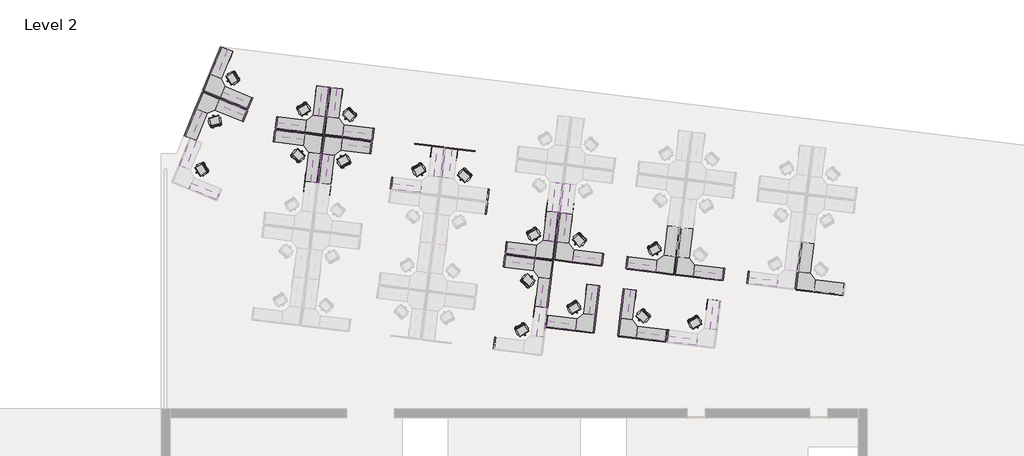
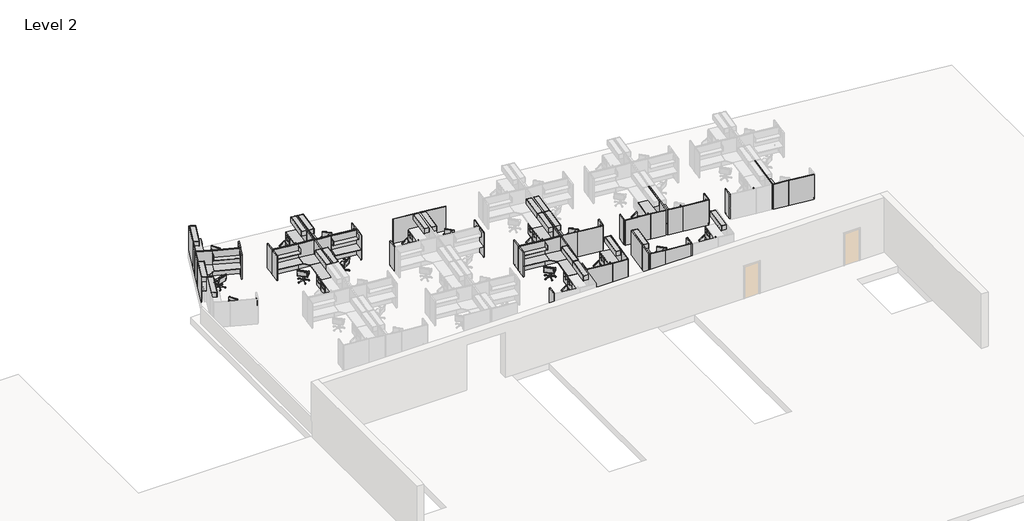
# One storey, part 5 of 6: 105 furniture elements.
"""IFC4 building model written with IfcOpenShell, lengths in millimetres."""

from ifc_helpers import new_model, si_unit, origin, place, context, project, spatial, transform, mapped, element, save
from components import chair_task_arms_chair_task_arms_3b363349, chair_task_arms_chair_task_arms_8395c10b, furniture_665347ce, furniture_3ceed070, furniture_00cef8f1, furniture_8d825890, overhead_shelving_module_overhead_shelving_module_3ee17988, overhead_shelving_module_overhead_shelving_module_7dcda1b9, overhead_storage_module_overhead_storage_module_326dc690, overhead_storage_module_overhead_storage_module_bea9f75f, furniture_0333d240, furniture_4718bb14, furniture_45e3acac, furniture_7b33082a

model = new_model("IFC4")

# Units and contexts
model_context = context("Model", 3, world=origin())
ifc_project = project(units=[si_unit("LENGTHUNIT", "METRE", prefix="MILLI")], contexts=[model_context])

# Site, building, storey
site = spatial("IfcSite", under=ifc_project)
building = spatial("IfcBuilding", under=site)
storey = spatial("IfcBuildingStorey", under=building, Name="Level 2", Elevation=3657.6)

# Furniture
placement = place(None, origin())
chair_task_arms_chair_task_arms_shape = chair_task_arms_chair_task_arms_3b363349(model_context)
element("IfcFurniture", 1, ObjectType="Chair-Task Arms : Chair-Task Arms", at=placement, inside=storey, context=model_context, shape_type="MappedRepresentation", body=[
    mapped(chair_task_arms_chair_task_arms_shape, transform((-23352.4193491, 11903.0432182, 3657.6), x_axis=(-0.7193398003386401, 0.6946583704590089, 0.0), y_axis=(-0.6946583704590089, -0.7193398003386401, 0.0), z_axis=(0.0, 0.0, 1.0))),
])
element("IfcFurniture", 2, ObjectType="Chair-Task Arms : Chair-Task Arms", at=placement, inside=storey, context=model_context, shape_type="MappedRepresentation", body=[
    mapped(chair_task_arms_chair_task_arms_shape, transform((-17391.147875, 8765.5606586, 3657.6), x_axis=(-0.7193398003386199, 0.6946583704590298, 0.0), y_axis=(-0.6946583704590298, -0.7193398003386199, 0.0), z_axis=(0.0, 0.0, 1.0))),
])
element("IfcFurniture", 3, ObjectType="Chair-Task Arms : Chair-Task Arms", at=placement, inside=storey, context=model_context, shape_type="MappedRepresentation", body=[
    mapped(chair_task_arms_chair_task_arms_shape, transform((-14358.0359457, 3469.8400502, 3657.6), x_axis=(0.7193398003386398, -0.6946583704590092, 0.0), y_axis=(0.6946583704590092, 0.7193398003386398, 0.0), z_axis=(0.0, 0.0, 1.0))),
])
element("IfcFurniture", 4, ObjectType="Chair-Task Arms : Chair-Task Arms", at=placement, inside=storey, context=model_context, shape_type="MappedRepresentation", body=[
    mapped(chair_task_arms_chair_task_arms_shape, transform((-11454.6402515, 5426.3927209, 3657.6), x_axis=(-0.7193398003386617, 0.6946583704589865, 0.0), y_axis=(-0.6946583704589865, -0.7193398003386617, 0.0), z_axis=(0.0, 0.0, 1.0))),
])
element("IfcFurniture", 5, ObjectType="Chair-Task Arms : Chair-Task Arms", at=placement, inside=storey, context=model_context, shape_type="MappedRepresentation", body=[
    mapped(chair_task_arms_chair_task_arms_shape, transform((-26255.8150433, 9946.4905474, 3657.6), x_axis=(0.7193398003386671, -0.6946583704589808, 0.0), y_axis=(0.6946583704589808, 0.7193398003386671, 0.0), z_axis=(0.0, 0.0, 1.0))),
])
element("IfcFurniture", 6, ObjectType="Chair-Task Arms : Chair-Task Arms", at=placement, inside=storey, context=model_context, shape_type="MappedRepresentation", body=[
    mapped(chair_task_arms_chair_task_arms_shape, transform((-29421.3744907, 13765.940724, 3657.6), x_axis=(-0.5113844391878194, 0.8593520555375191, 0.0), y_axis=(-0.8593520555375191, -0.5113844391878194, 0.0), z_axis=(0.0, 0.0, 1.0))),
])
element("IfcFurniture", 7, ObjectType="Chair-Task Arms : Chair-Task Arms", at=placement, inside=storey, context=model_context, shape_type="MappedRepresentation", body=[
    mapped(chair_task_arms_chair_task_arms_shape, transform((-31023.8319386, 9042.6474103, 3657.6), x_axis=(-0.5113844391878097, 0.8593520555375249, 0.0), y_axis=(-0.8593520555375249, -0.5113844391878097, 0.0), z_axis=(0.0, 0.0, 1.0))),
])
element("IfcFurniture", 8, ObjectType="Chair-Task Arms : Chair-Task Arms", at=placement, inside=storey, context=model_context, shape_type="MappedRepresentation", body=[
    mapped(chair_task_arms_chair_task_arms_shape, transform((-8151.4574, 1482.5085649, 3657.6), x_axis=(-0.7193398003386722, 0.6946583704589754, 0.0), y_axis=(-0.6946583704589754, -0.7193398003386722, 0.0), z_axis=(0.0, 0.0, 1.0))),
])
chair_task_arms_chair_task_arms_2_shape = chair_task_arms_chair_task_arms_8395c10b(model_context)
element("IfcFurniture", 9, ObjectType="Chair-Task Arms : Chair-Task Arms", at=placement, inside=storey, context=model_context, shape_type="MappedRepresentation", body=[
    mapped(chair_task_arms_chair_task_arms_2_shape, transform((-20014.7554735, 9087.6991655, 3657.6), x_axis=(0.866025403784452, 0.4999999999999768, 0.0), y_axis=(-0.4999999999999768, 0.866025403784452, 0.0), z_axis=(0.0, 0.0, 1.0))),
])
element("IfcFurniture", 10, ObjectType="Chair-Task Arms : Chair-Task Arms", at=placement, inside=storey, context=model_context, shape_type="MappedRepresentation", body=[
    mapped(chair_task_arms_chair_task_arms_2_shape, transform((-23632.2074448, 9624.3520405, 3657.6), x_axis=(-0.8660254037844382, -0.5000000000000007, 0.0), y_axis=(0.5000000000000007, -0.8660254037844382, 0.0), z_axis=(0.0, 0.0, 1.0))),
])
element("IfcFurniture", 11, ObjectType="Chair-Task Arms : Chair-Task Arms", at=placement, inside=storey, context=model_context, shape_type="MappedRepresentation", body=[
    mapped(chair_task_arms_chair_task_arms_2_shape, transform((-14078.24785, 5748.5312279, 3657.6), x_axis=(0.8660254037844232, 0.5000000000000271, 0.0), y_axis=(-0.5000000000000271, 0.8660254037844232, 0.0), z_axis=(0.0, 0.0, 1.0))),
])
element("IfcFurniture", 12, ObjectType="Chair-Task Arms : Chair-Task Arms", at=placement, inside=storey, context=model_context, shape_type="MappedRepresentation", body=[
    mapped(chair_task_arms_chair_task_arms_2_shape, transform((-14684.9621892, 807.2394665, 3657.6), x_axis=(0.8660254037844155, 0.5000000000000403, 0.0), y_axis=(-0.5000000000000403, 0.8660254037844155, 0.0), z_axis=(0.0, 0.0, 1.0))),
])
element("IfcFurniture", 13, ObjectType="Chair-Task Arms : Chair-Task Arms", at=placement, inside=storey, context=model_context, shape_type="MappedRepresentation", body=[
    mapped(chair_task_arms_chair_task_arms_2_shape, transform((-7826.0011316, 4980.8518599, 3657.6), x_axis=(0.8660254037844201, 0.5000000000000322, 0.0), y_axis=(-0.5000000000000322, 0.8660254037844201, 0.0), z_axis=(0.0, 0.0, 1.0))),
])
element("IfcFurniture", 14, ObjectType="Chair-Task Arms : Chair-Task Arms", at=placement, inside=storey, context=model_context, shape_type="MappedRepresentation", body=[
    mapped(chair_task_arms_chair_task_arms_2_shape, transform((-25976.0269476, 12225.1817252, 3657.6), x_axis=(0.8660254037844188, 0.5000000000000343, 0.0), y_axis=(-0.5000000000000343, 0.8660254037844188, 0.0), z_axis=(0.0, 0.0, 1.0))),
])
element("IfcFurniture", 15, ObjectType="Chair-Task Arms : Chair-Task Arms", at=placement, inside=storey, context=model_context, shape_type="MappedRepresentation", body=[
    mapped(chair_task_arms_chair_task_arms_2_shape, transform((-30290.4515264, 11640.9889674, 3657.6), x_axis=(-0.9670188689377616, -0.2547047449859, 0.0), y_axis=(0.2547047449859, -0.9670188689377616, 0.0), z_axis=(0.0, 0.0, 1.0))),
])
element("IfcFurniture", 16, ObjectType="Chair-Task Arms : Chair-Task Arms", at=placement, inside=storey, context=model_context, shape_type="MappedRepresentation", body=[
    mapped(chair_task_arms_chair_task_arms_2_shape, transform((-11985.1772665, 1953.2301754, 3657.6), x_axis=(0.8660254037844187, 0.5000000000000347, 0.0), y_axis=(-0.5000000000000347, 0.8660254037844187, 0.0), z_axis=(0.0, 0.0, 1.0))),
])
element("IfcFurniture", 17, ObjectType="Chair-Task Arms : Chair-Task Arms", at=placement, inside=storey, context=model_context, shape_type="MappedRepresentation", body=[
    mapped(chair_task_arms_chair_task_arms_2_shape, transform((-5732.9305481, 1185.5508074, 3657.6), x_axis=(0.8660254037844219, 0.5000000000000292, 0.0), y_axis=(-0.5000000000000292, 0.8660254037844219, 0.0), z_axis=(0.0, 0.0, 1.0))),
])
furniture_shape = furniture_665347ce(model_context)
element("IfcFurniture", 18, ObjectType="Cube Panel : 24\" x 66\"", at=placement, inside=storey, context=model_context, shape_type="MappedRepresentation", body=[
    mapped(furniture_shape, transform((-22264.9239048, 10971.2636434, 3657.6), x_axis=(0.12186934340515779, 0.9925461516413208, 0.0), y_axis=(-0.9925461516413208, 0.12186934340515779, 0.0), z_axis=(0.0, 0.0, 1.0))),
])
element("IfcFurniture", 19, ObjectType="Cube Panel : 24\" x 66\"", at=placement, inside=storey, context=model_context, shape_type="MappedRepresentation", body=[
    mapped(furniture_shape, transform((-16303.6524307, 7833.7810838, 3657.6), x_axis=(0.12186934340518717, 0.9925461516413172, 0.0), y_axis=(-0.9925461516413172, 0.12186934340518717, 0.0), z_axis=(0.0, 0.0, 1.0))),
])
element("IfcFurniture", 20, ObjectType="Cube Panel : 24\" x 66\"", at=placement, inside=storey, context=model_context, shape_type="MappedRepresentation", body=[
    mapped(furniture_shape, transform((-15445.53139, 4401.6196249, 3657.6), x_axis=(-0.12186934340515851, -0.9925461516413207, 0.0), y_axis=(0.9925461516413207, -0.12186934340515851, 0.0), z_axis=(0.0, 0.0, 1.0))),
])
element("IfcFurniture", 21, ObjectType="Cube Panel : 24\" x 66\"", at=placement, inside=storey, context=model_context, shape_type="MappedRepresentation", body=[
    mapped(furniture_shape, transform((-10367.1448072, 4494.6131461, 3657.6), x_axis=(0.12186934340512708, 0.9925461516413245, 0.0), y_axis=(-0.9925461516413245, 0.12186934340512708, 0.0), z_axis=(0.0, 0.0, 1.0))),
])
element("IfcFurniture", 22, ObjectType="Cube Panel : 24\" x 66\"", at=placement, inside=storey, context=model_context, shape_type="MappedRepresentation", body=[
    mapped(furniture_shape, transform((-4114.8980887, 3726.9337782, 3657.6), x_axis=(0.12186934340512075, 0.9925461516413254, 0.0), y_axis=(-0.9925461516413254, 0.12186934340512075, 0.0), z_axis=(0.0, 0.0, 1.0))),
])
element("IfcFurniture", 23, ObjectType="Cube Panel : 24\" x 66\"", at=placement, inside=storey, context=model_context, shape_type="MappedRepresentation", body=[
    mapped(furniture_shape, transform((-27343.3104877, 10878.2701222, 3657.6), x_axis=(-0.12186934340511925, -0.9925461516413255, 0.0), y_axis=(0.9925461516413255, -0.12186934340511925, 0.0), z_axis=(0.0, 0.0, 1.0))),
])
element("IfcFurniture", 24, ObjectType="Cube Panel : 24\" x 66\"", at=placement, inside=storey, context=model_context, shape_type="MappedRepresentation", body=[
    mapped(furniture_shape, transform((-28617.1338204, 12581.0118393, 3657.6), x_axis=(0.37855022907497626, 0.9255807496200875, 0.0), y_axis=(-0.9255807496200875, 0.37855022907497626, 0.0), z_axis=(0.0, 0.0, 1.0))),
])
element("IfcFurniture", 25, ObjectType="Cube Panel : 24\" x 66\"", at=placement, inside=storey, context=model_context, shape_type="MappedRepresentation", body=[
    mapped(furniture_shape, transform((-7063.9619556, 550.7289902, 3657.6), x_axis=(0.12186934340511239, 0.9925461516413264, 0.0), y_axis=(-0.9925461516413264, 0.12186934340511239, 0.0), z_axis=(0.0, 0.0, 1.0))),
])
furniture_2_shape = furniture_3ceed070(model_context)
element("IfcFurniture", 26, ObjectType="Cube Panel : 24\" x 66\"", at=placement, inside=storey, context=model_context, shape_type="MappedRepresentation", body=[
    mapped(furniture_2_shape, transform((-21295.3655365, 8446.6863856, 3657.6), x_axis=(0.12186934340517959, 0.9925461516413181, 0.0), y_axis=(-0.9925461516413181, 0.12186934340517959, 0.0), z_axis=(0.0, 0.0, 1.0))),
])
element("IfcFurniture", 27, ObjectType="Cube Panel : 24\" x 66\"", at=placement, inside=storey, context=model_context, shape_type="MappedRepresentation", body=[
    mapped(furniture_2_shape, transform((-22351.5973818, 10265.3648204, 3657.6), x_axis=(-0.12186934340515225, -0.9925461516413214, 0.0), y_axis=(0.9925461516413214, -0.12186934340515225, 0.0), z_axis=(0.0, 0.0, 1.0))),
])
element("IfcFurniture", 28, ObjectType="Cube Panel : 24\" x 66\"", at=placement, inside=storey, context=model_context, shape_type="MappedRepresentation", body=[
    mapped(furniture_2_shape, transform((-16390.3259077, 7127.8822607, 3657.6), x_axis=(-0.12186934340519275, -0.9925461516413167, 0.0), y_axis=(0.9925461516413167, -0.12186934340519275, 0.0), z_axis=(0.0, 0.0, 1.0))),
])
element("IfcFurniture", 29, ObjectType="Cube Panel : 24\" x 66\"", at=placement, inside=storey, context=model_context, shape_type="MappedRepresentation", body=[
    mapped(furniture_2_shape, transform((-15358.857913, 5107.518448, 3657.6), x_axis=(0.12186934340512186, 0.9925461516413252, 0.0), y_axis=(-0.9925461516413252, 0.12186934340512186, 0.0), z_axis=(0.0, 0.0, 1.0))),
])
element("IfcFurniture", 30, ObjectType="Cube Panel : 24\" x 66\"", at=placement, inside=storey, context=model_context, shape_type="MappedRepresentation", body=[
    mapped(furniture_2_shape, transform((-15965.5722522, 166.2266867, 3657.6), x_axis=(0.12186934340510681, 0.9925461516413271, 0.0), y_axis=(-0.9925461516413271, 0.12186934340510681, 0.0), z_axis=(0.0, 0.0, 1.0))),
])
element("IfcFurniture", 31, ObjectType="Cube Panel : 24\" x 66\"", at=placement, inside=storey, context=model_context, shape_type="MappedRepresentation", body=[
    mapped(furniture_2_shape, transform((-9106.6111946, 4339.83908, 3657.6), x_axis=(0.1218693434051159, 0.992546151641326, 0.0), y_axis=(-0.992546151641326, 0.1218693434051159, 0.0), z_axis=(0.0, 0.0, 1.0))),
])
element("IfcFurniture", 32, ObjectType="Cube Panel : 24\" x 66\"", at=placement, inside=storey, context=model_context, shape_type="MappedRepresentation", body=[
    mapped(furniture_2_shape, transform((-2854.3644762, 3572.159712, 3657.6), x_axis=(0.1218693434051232, 0.9925461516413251, 0.0), y_axis=(-0.9925461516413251, 0.1218693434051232, 0.0), z_axis=(0.0, 0.0, 1.0))),
])
element("IfcFurniture", 33, ObjectType="Cube Panel : 24\" x 66\"", at=placement, inside=storey, context=model_context, shape_type="MappedRepresentation", body=[
    mapped(furniture_2_shape, transform((-27256.6370106, 11584.1689453, 3657.6), x_axis=(0.12186934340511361, 0.9925461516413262, 0.0), y_axis=(-0.9925461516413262, 0.12186934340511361, 0.0), z_axis=(0.0, 0.0, 1.0))),
])
element("IfcFurniture", 34, ObjectType="Cube Panel : 24\" x 66\"", at=placement, inside=storey, context=model_context, shape_type="MappedRepresentation", body=[
    mapped(furniture_2_shape, transform((-28886.3587433, 11922.7388102, 3657.6), x_axis=(-0.37855022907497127, -0.9255807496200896, 0.0), y_axis=(0.9255807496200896, -0.37855022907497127, 0.0), z_axis=(0.0, 0.0, 1.0))),
])
element("IfcFurniture", 35, ObjectType="Cube Panel : 24\" x 66\"", at=placement, inside=storey, context=model_context, shape_type="MappedRepresentation", body=[
    mapped(furniture_2_shape, transform((-13265.7873296, 1312.2173955, 3657.6), x_axis=(0.12186934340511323, 0.9925461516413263, 0.0), y_axis=(-0.9925461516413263, 0.12186934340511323, 0.0), z_axis=(0.0, 0.0, 1.0))),
])
element("IfcFurniture", 36, ObjectType="Cube Panel : 24\" x 66\"", at=placement, inside=storey, context=model_context, shape_type="MappedRepresentation", body=[
    mapped(furniture_2_shape, transform((-7013.5406111, 544.5380275, 3657.6), x_axis=(0.12186934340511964, 0.9925461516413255, 0.0), y_axis=(-0.9925461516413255, 0.12186934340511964, 0.0), z_axis=(0.0, 0.0, 1.0))),
])
furniture_3_shape = furniture_00cef8f1(model_context)
element("IfcFurniture", 37, ObjectType="Cube Panel : 60\" x 66\"", at=placement, inside=storey, context=model_context, shape_type="MappedRepresentation", body=[
    mapped(furniture_3_shape, transform((-17729.6515591, 10184.0854738, 3657.6), x_axis=(0.9925461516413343, -0.12186934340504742, 0.0), y_axis=(0.12186934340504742, 0.9925461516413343, 0.0), z_axis=(0.0, 0.0, 1.0))),
])
furniture_4_shape = furniture_8d825890(model_context)
element("IfcFurniture", 38, ObjectType="Cube Panel : 60\" x 66\"", at=placement, inside=storey, context=model_context, shape_type="MappedRepresentation", body=[
    mapped(furniture_4_shape, transform((-19343.1345832, 10382.1962784, 3657.6), x_axis=(-0.9925461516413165, 0.12186934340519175, 0.0), y_axis=(-0.12186934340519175, -0.9925461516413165, 0.0), z_axis=(0.0, 0.0, 1.0))),
])
overhead_shelving_module_overhead_shelving_module_shape = overhead_shelving_module_overhead_shelving_module_3ee17988(model_context)
element("IfcFurniture", 39, ObjectType="Overhead Shelving Module : Overhead Shelving Module", at=placement, inside=storey, context=model_context, shape_type="MappedRepresentation", body=[
    mapped(overhead_shelving_module_overhead_shelving_module_shape, transform((-23211.4257966, 11018.3276546, 3505.2), x_axis=(-0.9925461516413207, 0.1218693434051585, 0.0), y_axis=(-0.1218693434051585, -0.9925461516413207, 0.0), z_axis=(0.0, 0.0, 1.0))),
])
element("IfcFurniture", 40, ObjectType="Overhead Shelving Module : Overhead Shelving Module", at=placement, inside=storey, context=model_context, shape_type="MappedRepresentation", body=[
    mapped(overhead_shelving_module_overhead_shelving_module_shape, transform((-14499.0294982, 4354.5556138, 3505.2), x_axis=(0.9925461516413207, -0.12186934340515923, 0.0), y_axis=(0.12186934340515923, 0.9925461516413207, 0.0), z_axis=(0.0, 0.0, 1.0))),
])
element("IfcFurniture", 41, ObjectType="Overhead Shelving Module : Overhead Shelving Module", at=placement, inside=storey, context=model_context, shape_type="MappedRepresentation", body=[
    mapped(overhead_shelving_module_overhead_shelving_module_shape, transform((-11313.646699, 4541.6771573, 3505.2), x_axis=(-0.9925461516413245, 0.1218693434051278, 0.0), y_axis=(-0.1218693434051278, -0.9925461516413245, 0.0), z_axis=(0.0, 0.0, 1.0))),
])
element("IfcFurniture", 42, ObjectType="Overhead Shelving Module : Overhead Shelving Module", at=placement, inside=storey, context=model_context, shape_type="MappedRepresentation", body=[
    mapped(overhead_shelving_module_overhead_shelving_module_shape, transform((-5061.3999806, 3773.9977893, 3505.2), x_axis=(-0.9925461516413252, 0.12186934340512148, 0.0), y_axis=(-0.12186934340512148, -0.9925461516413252, 0.0), z_axis=(0.0, 0.0, 1.0))),
])
element("IfcFurniture", 43, ObjectType="Overhead Shelving Module : Overhead Shelving Module", at=placement, inside=storey, context=model_context, shape_type="MappedRepresentation", body=[
    mapped(overhead_shelving_module_overhead_shelving_module_shape, transform((-26396.8085958, 10831.2061111, 3505.2), x_axis=(0.9925461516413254, -0.12186934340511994, 0.0), y_axis=(0.12186934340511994, 0.9925461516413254, 0.0), z_axis=(0.0, 0.0, 1.0))),
])
element("IfcFurniture", 44, ObjectType="Overhead Shelving Module : Overhead Shelving Module", at=placement, inside=storey, context=model_context, shape_type="MappedRepresentation", body=[
    mapped(overhead_shelving_module_overhead_shelving_module_shape, transform((-29517.9588301, 12875.2823856, 3505.2), x_axis=(-0.9255807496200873, 0.378550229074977, 0.0), y_axis=(-0.378550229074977, -0.9255807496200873, 0.0), z_axis=(0.0, 0.0, 1.0))),
])
element("IfcFurniture", 45, ObjectType="Overhead Shelving Module : Overhead Shelving Module", at=placement, inside=storey, context=model_context, shape_type="MappedRepresentation", body=[
    mapped(overhead_shelving_module_overhead_shelving_module_shape, transform((-31120.416278, 8151.9890719, 3505.2), x_axis=(-0.9255807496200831, 0.37855022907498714, 0.0), y_axis=(-0.37855022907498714, -0.9255807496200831, 0.0), z_axis=(0.0, 0.0, 1.0))),
])
element("IfcFurniture", 46, ObjectType="Overhead Shelving Module : Overhead Shelving Module", at=placement, inside=storey, context=model_context, shape_type="MappedRepresentation", body=[
    mapped(overhead_shelving_module_overhead_shelving_module_shape, transform((-8010.4638475, 597.7930013, 3505.2), x_axis=(-0.9925461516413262, 0.12186934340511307, 0.0), y_axis=(-0.12186934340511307, -0.9925461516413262, 0.0), z_axis=(0.0, 0.0, 1.0))),
])
overhead_shelving_module_overhead_shelving_module_2_shape = overhead_shelving_module_overhead_shelving_module_7dcda1b9(model_context)
element("IfcFurniture", 47, ObjectType="Overhead Shelving Module : Overhead Shelving Module", at=placement, inside=storey, context=model_context, shape_type="MappedRepresentation", body=[
    mapped(overhead_shelving_module_overhead_shelving_module_2_shape, transform((-20365.5929812, 8263.3728626, 3505.2), x_axis=(0.9925461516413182, -0.12186934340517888, 0.0), y_axis=(0.12186934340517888, 0.9925461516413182, 0.0), z_axis=(0.0, 0.0, 1.0))),
])
element("IfcFurniture", 48, ObjectType="Overhead Shelving Module : Overhead Shelving Module", at=placement, inside=storey, context=model_context, shape_type="MappedRepresentation", body=[
    mapped(overhead_shelving_module_overhead_shelving_module_2_shape, transform((-23281.3699372, 10448.6783434, 3505.2), x_axis=(-0.9925461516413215, 0.12186934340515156, 0.0), y_axis=(-0.12186934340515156, -0.9925461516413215, 0.0), z_axis=(0.0, 0.0, 1.0))),
])
element("IfcFurniture", 49, ObjectType="Overhead Shelving Module : Overhead Shelving Module", at=placement, inside=storey, context=model_context, shape_type="MappedRepresentation", body=[
    mapped(overhead_shelving_module_overhead_shelving_module_2_shape, transform((-14429.0853576, 4924.204925, 3505.2), x_axis=(0.9925461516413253, -0.12186934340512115, 0.0), y_axis=(0.12186934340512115, 0.9925461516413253, 0.0), z_axis=(0.0, 0.0, 1.0))),
])
element("IfcFurniture", 50, ObjectType="Overhead Shelving Module : Overhead Shelving Module", at=placement, inside=storey, context=model_context, shape_type="MappedRepresentation", body=[
    mapped(overhead_shelving_module_overhead_shelving_module_2_shape, transform((-8176.8386392, 4156.525557, 3505.2), x_axis=(0.9925461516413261, -0.12186934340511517, 0.0), y_axis=(0.12186934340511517, 0.9925461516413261, 0.0), z_axis=(0.0, 0.0, 1.0))),
])
element("IfcFurniture", 51, ObjectType="Overhead Shelving Module : Overhead Shelving Module", at=placement, inside=storey, context=model_context, shape_type="MappedRepresentation", body=[
    mapped(overhead_shelving_module_overhead_shelving_module_2_shape, transform((-1924.5919208, 3388.846189, 3505.2), x_axis=(0.9925461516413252, -0.12186934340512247, 0.0), y_axis=(0.12186934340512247, 0.9925461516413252, 0.0), z_axis=(0.0, 0.0, 1.0))),
])
element("IfcFurniture", 52, ObjectType="Overhead Shelving Module : Overhead Shelving Module", at=placement, inside=storey, context=model_context, shape_type="MappedRepresentation", body=[
    mapped(overhead_shelving_module_overhead_shelving_module_2_shape, transform((-26326.8644553, 11400.8554223, 3505.2), x_axis=(0.9925461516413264, -0.12186934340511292, 0.0), y_axis=(0.12186934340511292, 0.9925461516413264, 0.0), z_axis=(0.0, 0.0, 1.0))),
])
element("IfcFurniture", 53, ObjectType="Overhead Shelving Module : Overhead Shelving Module", at=placement, inside=storey, context=model_context, shape_type="MappedRepresentation", body=[
    mapped(overhead_shelving_module_overhead_shelving_module_2_shape, transform((-29735.2191327, 12344.0663453, 3505.2), x_axis=(-0.9255807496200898, 0.3785502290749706, 0.0), y_axis=(-0.3785502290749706, -0.9255807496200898, 0.0), z_axis=(0.0, 0.0, 1.0))),
])
element("IfcFurniture", 54, ObjectType="Overhead Shelving Module : Overhead Shelving Module", at=placement, inside=storey, context=model_context, shape_type="MappedRepresentation", body=[
    mapped(overhead_shelving_module_overhead_shelving_module_2_shape, transform((-12336.0147742, 1128.9038725, 3505.2), x_axis=(0.9925461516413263, -0.1218693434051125, 0.0), y_axis=(0.1218693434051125, 0.9925461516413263, 0.0), z_axis=(0.0, 0.0, 1.0))),
])
element("IfcFurniture", 55, ObjectType="Overhead Shelving Module : Overhead Shelving Module", at=placement, inside=storey, context=model_context, shape_type="MappedRepresentation", body=[
    mapped(overhead_shelving_module_overhead_shelving_module_2_shape, transform((-6083.7680558, 361.2245045, 3505.2), x_axis=(0.9925461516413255, -0.12186934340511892, 0.0), y_axis=(0.12186934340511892, 0.9925461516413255, 0.0), z_axis=(0.0, 0.0, 1.0))),
])
overhead_storage_module_overhead_storage_module_shape = overhead_storage_module_overhead_storage_module_326dc690(model_context)
element("IfcFurniture", 56, ObjectType="Overhead Storage Module : Overhead Storage Module", at=placement, inside=storey, context=model_context, shape_type="MappedRepresentation", body=[
    mapped(overhead_storage_module_overhead_storage_module_shape, transform((-24289.5709646, 12760.7269095, 3657.6), x_axis=(0.12186934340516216, 0.9925461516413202, 0.0), y_axis=(-0.9925461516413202, 0.12186934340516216, 0.0), z_axis=(0.0, 0.0, 1.0))),
])
element("IfcFurniture", 57, ObjectType="Overhead Storage Module : Overhead Storage Module", at=placement, inside=storey, context=model_context, shape_type="MappedRepresentation", body=[
    mapped(overhead_storage_module_overhead_storage_module_shape, transform((-18328.2994905, 9623.2443498, 3657.6), x_axis=(0.12186934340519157, 0.9925461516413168, 0.0), y_axis=(-0.9925461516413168, 0.12186934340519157, 0.0), z_axis=(0.0, 0.0, 1.0))),
])
element("IfcFurniture", 58, ObjectType="Overhead Storage Module : Overhead Storage Module", at=placement, inside=storey, context=model_context, shape_type="MappedRepresentation", body=[
    mapped(overhead_storage_module_overhead_storage_module_shape, transform((-12814.169991, 7553.4481202, 3657.6), x_axis=(-0.12186934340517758, -0.9925461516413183, 0.0), y_axis=(0.9925461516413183, -0.12186934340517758, 0.0), z_axis=(0.0, 0.0, 1.0))),
])
element("IfcFurniture", 59, ObjectType="Overhead Storage Module : Overhead Storage Module", at=placement, inside=storey, context=model_context, shape_type="MappedRepresentation", body=[
    mapped(overhead_storage_module_overhead_storage_module_shape, transform((-13420.8843302, 2612.1563589, 3657.6), x_axis=(-0.12186934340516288, -0.9925461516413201, 0.0), y_axis=(0.9925461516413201, -0.12186934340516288, 0.0), z_axis=(0.0, 0.0, 1.0))),
])
element("IfcFurniture", 60, ObjectType="Overhead Storage Module : Overhead Storage Module", at=placement, inside=storey, context=model_context, shape_type="MappedRepresentation", body=[
    mapped(overhead_storage_module_overhead_storage_module_shape, transform((-12391.791867, 6284.0764122, 3657.6), x_axis=(0.12186934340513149, 0.9925461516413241, 0.0), y_axis=(-0.9925461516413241, 0.12186934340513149, 0.0), z_axis=(0.0, 0.0, 1.0))),
])
element("IfcFurniture", 61, ObjectType="Overhead Storage Module : Overhead Storage Module", at=placement, inside=storey, context=model_context, shape_type="MappedRepresentation", body=[
    mapped(overhead_storage_module_overhead_storage_module_shape, transform((-25318.6634278, 9088.8068562, 3657.6), x_axis=(-0.12186934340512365, -0.992546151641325, 0.0), y_axis=(0.992546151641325, -0.12186934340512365, 0.0), z_axis=(0.0, 0.0, 1.0))),
])
element("IfcFurniture", 62, ObjectType="Overhead Storage Module : Overhead Storage Module", at=placement, inside=storey, context=model_context, shape_type="MappedRepresentation", body=[
    mapped(overhead_storage_module_overhead_storage_module_shape, transform((-30100.0430687, 14839.8510675, 3657.6), x_axis=(0.3785502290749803, 0.9255807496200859, 0.0), y_axis=(-0.9255807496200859, 0.3785502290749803, 0.0), z_axis=(0.0, 0.0, 1.0))),
])
element("IfcFurniture", 63, ObjectType="Overhead Storage Module : Overhead Storage Module", at=placement, inside=storey, context=model_context, shape_type="MappedRepresentation", body=[
    mapped(overhead_storage_module_overhead_storage_module_shape, transform((-31702.5005167, 10116.5577538, 3657.6), x_axis=(0.37855022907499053, 0.9255807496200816, 0.0), y_axis=(-0.9255807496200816, 0.37855022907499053, 0.0), z_axis=(0.0, 0.0, 1.0))),
])
element("IfcFurniture", 64, ObjectType="Overhead Storage Module : Overhead Storage Module", at=placement, inside=storey, context=model_context, shape_type="MappedRepresentation", body=[
    mapped(overhead_storage_module_overhead_storage_module_shape, transform((-9088.6090155, 2340.1922562, 3657.6), x_axis=(0.12186934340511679, 0.9925461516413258, 0.0), y_axis=(-0.9925461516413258, 0.12186934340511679, 0.0), z_axis=(0.0, 0.0, 1.0))),
])
overhead_storage_module_overhead_storage_module_2_shape = overhead_storage_module_overhead_storage_module_bea9f75f(model_context)
element("IfcFurniture", 65, ObjectType="Overhead Storage Module : Overhead Storage Module", at=placement, inside=storey, context=model_context, shape_type="MappedRepresentation", body=[
    mapped(overhead_storage_module_overhead_storage_module_2_shape, transform((-18897.9488017, 9693.1884904, 3657.6), x_axis=(0.1218693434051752, 0.9925461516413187, 0.0), y_axis=(-0.9925461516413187, 0.1218693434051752, 0.0), z_axis=(0.0, 0.0, 1.0))),
])
element("IfcFurniture", 66, ObjectType="Overhead Storage Module : Overhead Storage Module", at=placement, inside=storey, context=model_context, shape_type="MappedRepresentation", body=[
    mapped(overhead_storage_module_overhead_storage_module_2_shape, transform((-24749.0141166, 9018.8627156, 3657.6), x_axis=(-0.12186934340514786, -0.992546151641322, 0.0), y_axis=(0.992546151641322, -0.12186934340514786, 0.0), z_axis=(0.0, 0.0, 1.0))),
])
element("IfcFurniture", 67, ObjectType="Overhead Storage Module : Overhead Storage Module", at=placement, inside=storey, context=model_context, shape_type="MappedRepresentation", body=[
    mapped(overhead_storage_module_overhead_storage_module_2_shape, transform((-12961.4411782, 6354.0205527, 3657.6), x_axis=(0.12186934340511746, 0.9925461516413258, 0.0), y_axis=(-0.9925461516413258, 0.12186934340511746, 0.0), z_axis=(0.0, 0.0, 1.0))),
])
element("IfcFurniture", 68, ObjectType="Overhead Storage Module : Overhead Storage Module", at=placement, inside=storey, context=model_context, shape_type="MappedRepresentation", body=[
    mapped(overhead_storage_module_overhead_storage_module_2_shape, transform((-13568.1555174, 1412.7287914, 3657.6), x_axis=(0.1218693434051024, 0.9925461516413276, 0.0), y_axis=(-0.9925461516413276, 0.1218693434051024, 0.0), z_axis=(0.0, 0.0, 1.0))),
])
element("IfcFurniture", 69, ObjectType="Overhead Storage Module : Overhead Storage Module", at=placement, inside=storey, context=model_context, shape_type="MappedRepresentation", body=[
    mapped(overhead_storage_module_overhead_storage_module_2_shape, transform((-12244.5206798, 7483.5039797, 3657.6), x_axis=(-0.12186934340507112, -0.9925461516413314, 0.0), y_axis=(0.9925461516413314, -0.12186934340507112, 0.0), z_axis=(0.0, 0.0, 1.0))),
])
element("IfcFurniture", 70, ObjectType="Overhead Storage Module : Overhead Storage Module", at=placement, inside=storey, context=model_context, shape_type="MappedRepresentation", body=[
    mapped(overhead_storage_module_overhead_storage_module_2_shape, transform((-24859.2202758, 12830.67105, 3657.6), x_axis=(0.12186934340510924, 0.9925461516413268, 0.0), y_axis=(-0.9925461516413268, 0.12186934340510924, 0.0), z_axis=(0.0, 0.0, 1.0))),
])
element("IfcFurniture", 71, ObjectType="Overhead Storage Module : Overhead Storage Module", at=placement, inside=storey, context=model_context, shape_type="MappedRepresentation", body=[
    mapped(overhead_storage_module_overhead_storage_module_2_shape, transform((-31527.1641607, 11350.4440915, 3657.6), x_axis=(-0.3785502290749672, -0.9255807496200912, 0.0), y_axis=(0.9255807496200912, -0.3785502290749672, 0.0), z_axis=(0.0, 0.0, 1.0))),
])
element("IfcFurniture", 72, ObjectType="Overhead Storage Module : Overhead Storage Module", at=placement, inside=storey, context=model_context, shape_type="MappedRepresentation", body=[
    mapped(overhead_storage_module_overhead_storage_module_2_shape, transform((-10868.3705948, 2558.7195002, 3657.6), x_axis=(0.12186934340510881, 0.9925461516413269, 0.0), y_axis=(-0.9925461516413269, 0.12186934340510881, 0.0), z_axis=(0.0, 0.0, 1.0))),
])
element("IfcFurniture", 73, ObjectType="Overhead Storage Module : Overhead Storage Module", at=placement, inside=storey, context=model_context, shape_type="MappedRepresentation", body=[
    mapped(overhead_storage_module_overhead_storage_module_2_shape, transform((-4616.1238763, 1791.0401323, 3657.6), x_axis=(0.12186934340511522, 0.9925461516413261, 0.0), y_axis=(-0.9925461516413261, 0.12186934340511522, 0.0), z_axis=(0.0, 0.0, 1.0))),
])
furniture_5_shape = furniture_0333d240(model_context)
element("IfcFurniture", 74, ObjectType="Storage Pedestal : 20\" x 30\" x 36\"", at=placement, inside=storey, context=model_context, shape_type="MappedRepresentation", body=[
    mapped(furniture_5_shape, transform((-25017.946444, 13358.791477, 3657.6), x_axis=(0.12186934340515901, 0.9925461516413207, 0.0), y_axis=(-0.9925461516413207, 0.12186934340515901, 0.0), z_axis=(0.0, 0.0, 1.0))),
])
element("IfcFurniture", 75, ObjectType="Storage Pedestal : 20\" x 30\" x 36\"", at=placement, inside=storey, context=model_context, shape_type="MappedRepresentation", body=[
    mapped(furniture_5_shape, transform((-19056.6749698, 10221.3089174, 3657.6), x_axis=(0.12186934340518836, 0.9925461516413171, 0.0), y_axis=(-0.9925461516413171, 0.12186934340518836, 0.0), z_axis=(0.0, 0.0, 1.0))),
])
element("IfcFurniture", 76, ObjectType="Storage Pedestal : 20\" x 30\" x 36\"", at=placement, inside=storey, context=model_context, shape_type="MappedRepresentation", body=[
    mapped(furniture_5_shape, transform((-12085.7945117, 6955.3835527, 3657.6), x_axis=(-0.12186934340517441, -0.9925461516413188, 0.0), y_axis=(0.9925461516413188, -0.12186934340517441, 0.0), z_axis=(0.0, 0.0, 1.0))),
])
element("IfcFurniture", 77, ObjectType="Storage Pedestal : 20\" x 30\" x 36\"", at=placement, inside=storey, context=model_context, shape_type="MappedRepresentation", body=[
    mapped(furniture_5_shape, transform((-25624.6607832, 8417.4997157, 3657.6), x_axis=(0.12186934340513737, 0.9925461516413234, 0.0), y_axis=(-0.9925461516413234, 0.12186934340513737, 0.0), z_axis=(0.0, 0.0, 1.0))),
])
element("IfcFurniture", 78, ObjectType="Storage Pedestal : 20\" x 30\" x 36\"", at=placement, inside=storey, context=model_context, shape_type="MappedRepresentation", body=[
    mapped(furniture_5_shape, transform((-12692.5088509, 2014.0917913, 3657.6), x_axis=(-0.12186934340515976, -0.9925461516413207, 0.0), y_axis=(0.9925461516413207, -0.12186934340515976, 0.0), z_axis=(0.0, 0.0, 1.0))),
])
element("IfcFurniture", 79, ObjectType="Storage Pedestal : 20\" x 30\" x 36\"", at=placement, inside=storey, context=model_context, shape_type="MappedRepresentation", body=[
    mapped(furniture_5_shape, transform((-13120.1673463, 6882.1409797, 3657.6), x_axis=(0.12186934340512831, 0.9925461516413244, 0.0), y_axis=(-0.9925461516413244, 0.12186934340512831, 0.0), z_axis=(0.0, 0.0, 1.0))),
])
element("IfcFurniture", 80, ObjectType="Storage Pedestal : 20\" x 30\" x 36\"", at=placement, inside=storey, context=model_context, shape_type="MappedRepresentation", body=[
    mapped(furniture_5_shape, transform((-24590.2879485, 8490.7422886, 3657.6), x_axis=(-0.12186934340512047, -0.9925461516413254, 0.0), y_axis=(0.9925461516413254, -0.12186934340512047, 0.0), z_axis=(0.0, 0.0, 1.0))),
])
element("IfcFurniture", 81, ObjectType="Storage Pedestal : 20\" x 30\" x 36\"", at=placement, inside=storey, context=model_context, shape_type="MappedRepresentation", body=[
    mapped(furniture_5_shape, transform((-30645.5425477, 15608.3836851, 3657.6), x_axis=(0.37855022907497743, 0.9255807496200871, 0.0), y_axis=(-0.9255807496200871, 0.37855022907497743, 0.0), z_axis=(0.0, 0.0, 1.0))),
])
element("IfcFurniture", 82, ObjectType="Storage Pedestal : 20\" x 30\" x 36\"", at=placement, inside=storey, context=model_context, shape_type="MappedRepresentation", body=[
    mapped(furniture_5_shape, transform((-9816.9844948, 2938.2568238, 3657.6), x_axis=(0.12186934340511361, 0.9925461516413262, 0.0), y_axis=(-0.9925461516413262, 0.12186934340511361, 0.0), z_axis=(0.0, 0.0, 1.0))),
])
furniture_6_shape = furniture_4718bb14(model_context)
element("IfcFurniture", 83, ObjectType="Storage Pedestal : 20\" x 30\" x 36\"", at=placement, inside=storey, context=model_context, shape_type="MappedRepresentation", body=[
    mapped(furniture_6_shape, transform((-18046.5242731, 10097.2780076, 3657.6), x_axis=(0.1218693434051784, 0.9925461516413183, 0.0), y_axis=(-0.9925461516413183, 0.1218693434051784, 0.0), z_axis=(0.0, 0.0, 1.0))),
])
element("IfcFurniture", 84, ObjectType="Storage Pedestal : 20\" x 30\" x 36\"", at=placement, inside=storey, context=model_context, shape_type="MappedRepresentation", body=[
    mapped(furniture_6_shape, transform((-25600.4386452, 8614.7731984, 3657.6), x_axis=(-0.12186934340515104, -0.9925461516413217, 0.0), y_axis=(0.9925461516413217, -0.12186934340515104, 0.0), z_axis=(0.0, 0.0, 1.0))),
])
element("IfcFurniture", 85, ObjectType="Storage Pedestal : 20\" x 30\" x 36\"", at=placement, inside=storey, context=model_context, shape_type="MappedRepresentation", body=[
    mapped(furniture_6_shape, transform((-12110.0166496, 6758.11007, 3657.6), x_axis=(0.12186934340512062, 0.9925461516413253, 0.0), y_axis=(-0.9925461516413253, 0.12186934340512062, 0.0), z_axis=(0.0, 0.0, 1.0))),
])
element("IfcFurniture", 86, ObjectType="Storage Pedestal : 20\" x 30\" x 36\"", at=placement, inside=storey, context=model_context, shape_type="MappedRepresentation", body=[
    mapped(furniture_6_shape, transform((-12716.7309888, 1816.8183086, 3657.6), x_axis=(0.12186934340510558, 0.9925461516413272, 0.0), y_axis=(-0.9925461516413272, 0.12186934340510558, 0.0), z_axis=(0.0, 0.0, 1.0))),
])
element("IfcFurniture", 87, ObjectType="Storage Pedestal : 20\" x 30\" x 36\"", at=placement, inside=storey, context=model_context, shape_type="MappedRepresentation", body=[
    mapped(furniture_6_shape, transform((-13095.9452084, 7079.4144624, 3657.6), x_axis=(-0.1218693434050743, -0.9925461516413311, 0.0), y_axis=(0.9925461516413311, -0.1218693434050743, 0.0), z_axis=(0.0, 0.0, 1.0))),
])
element("IfcFurniture", 88, ObjectType="Storage Pedestal : 20\" x 30\" x 36\"", at=placement, inside=storey, context=model_context, shape_type="MappedRepresentation", body=[
    mapped(furniture_6_shape, transform((-24007.7957472, 13234.7605673, 3657.6), x_axis=(0.1218693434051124, 0.9925461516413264, 0.0), y_axis=(-0.9925461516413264, 0.1218693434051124, 0.0), z_axis=(0.0, 0.0, 1.0))),
])
element("IfcFurniture", 89, ObjectType="Storage Pedestal : 20\" x 30\" x 36\"", at=placement, inside=storey, context=model_context, shape_type="MappedRepresentation", body=[
    mapped(furniture_6_shape, transform((-24614.5100864, 8293.4688059, 3657.6), x_axis=(0.12186934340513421, 0.9925461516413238, 0.0), y_axis=(-0.9925461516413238, 0.12186934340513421, 0.0), z_axis=(0.0, 0.0, 1.0))),
])
element("IfcFurniture", 90, ObjectType="Storage Pedestal : 20\" x 30\" x 36\"", at=placement, inside=storey, context=model_context, shape_type="MappedRepresentation", body=[
    mapped(furniture_6_shape, transform((-10016.9460662, 2962.8090175, 3657.6), x_axis=(0.12186934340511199, 0.9925461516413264, 0.0), y_axis=(-0.9925461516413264, 0.12186934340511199, 0.0), z_axis=(0.0, 0.0, 1.0))),
])
element("IfcFurniture", 91, ObjectType="Storage Pedestal : 20\" x 30\" x 36\"", at=placement, inside=storey, context=model_context, shape_type="MappedRepresentation", body=[
    mapped(furniture_6_shape, transform((-3764.6993477, 2195.1296495, 3657.6), x_axis=(0.1218693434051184, 0.9925461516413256, 0.0), y_axis=(-0.9925461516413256, 0.1218693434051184, 0.0), z_axis=(0.0, 0.0, 1.0))),
])
furniture_7_shape = furniture_45e3acac(model_context)
element("IfcFurniture", 92, ObjectType="Work Station Cubicle : 96\" x 96\"", at=placement, inside=storey, context=model_context, shape_type="MappedRepresentation", body=[
    mapped(furniture_7_shape, transform((-25279.3963153, 11115.8448554, 3657.6), x_axis=(0.12186934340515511, 0.9925461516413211, 0.0), y_axis=(-0.9925461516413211, 0.12186934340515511, 0.0), z_axis=(0.0, 0.0, 1.0))),
])
element("IfcFurniture", 93, ObjectType="Work Station Cubicle : 96\" x 96\"", at=placement, inside=storey, context=model_context, shape_type="MappedRepresentation", body=[
    mapped(furniture_7_shape, transform((-12431.0589795, 4257.0384129, 3657.6), x_axis=(-0.12186934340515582, -0.992546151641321, 0.0), y_axis=(0.992546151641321, -0.12186934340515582, 0.0), z_axis=(0.0, 0.0, 1.0))),
])
element("IfcFurniture", 94, ObjectType="Work Station Cubicle : 96\" x 96\"", at=placement, inside=storey, context=model_context, shape_type="MappedRepresentation", body=[
    mapped(furniture_7_shape, transform((-13381.6172176, 4639.1943582, 3657.6), x_axis=(0.12186934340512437, 0.9925461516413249, 0.0), y_axis=(-0.9925461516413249, 0.12186934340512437, 0.0), z_axis=(0.0, 0.0, 1.0))),
])
element("IfcFurniture", 95, ObjectType="Work Station Cubicle : 96\" x 96\"", at=placement, inside=storey, context=model_context, shape_type="MappedRepresentation", body=[
    mapped(furniture_7_shape, transform((-7129.3704992, 3871.5149902, 3657.6), x_axis=(0.12186934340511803, 0.9925461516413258, 0.0), y_axis=(-0.9925461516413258, 0.12186934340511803, 0.0), z_axis=(0.0, 0.0, 1.0))),
])
element("IfcFurniture", 96, ObjectType="Work Station Cubicle : 96\" x 96\"", at=placement, inside=storey, context=model_context, shape_type="MappedRepresentation", body=[
    mapped(furniture_7_shape, transform((-877.1237808, 3103.8356222, 3657.6), x_axis=(0.12186934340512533, 0.9925461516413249, 0.0), y_axis=(-0.9925461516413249, 0.12186934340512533, 0.0), z_axis=(0.0, 0.0, 1.0))),
])
element("IfcFurniture", 97, ObjectType="Work Station Cubicle : 96\" x 96\"", at=placement, inside=storey, context=model_context, shape_type="MappedRepresentation", body=[
    mapped(furniture_7_shape, transform((-24328.8380772, 10733.6889102, 3657.6), x_axis=(-0.12186934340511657, -0.9925461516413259, 0.0), y_axis=(0.9925461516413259, -0.12186934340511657, 0.0), z_axis=(0.0, 0.0, 1.0))),
])
element("IfcFurniture", 98, ObjectType="Work Station Cubicle : 96\" x 96\"", at=placement, inside=storey, context=model_context, shape_type="MappedRepresentation", body=[
    mapped(furniture_7_shape, transform((-31487.5283164, 13513.0971777, 3657.6), x_axis=(0.3785502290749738, 0.9255807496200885, 0.0), y_axis=(-0.9255807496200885, 0.3785502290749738, 0.0), z_axis=(0.0, 0.0, 1.0))),
])
element("IfcFurniture", 99, ObjectType="Work Station Cubicle : 96\" x 96\"", at=placement, inside=storey, context=model_context, shape_type="MappedRepresentation", body=[
    mapped(furniture_7_shape, transform((-10078.4343661, 695.3102022, 3657.6), x_axis=(0.12186934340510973, 0.9925461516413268, 0.0), y_axis=(-0.9925461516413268, 0.12186934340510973, 0.0), z_axis=(0.0, 0.0, 1.0))),
])
furniture_8_shape = furniture_7b33082a(model_context)
element("IfcFurniture", 100, ObjectType="Work Station Cubicle : 96\" x 96\"", at=placement, inside=storey, context=model_context, shape_type="MappedRepresentation", body=[
    mapped(furniture_8_shape, transform((-25311.5044396, 10854.345168, 3657.6), x_axis=(-0.12186934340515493, -0.9925461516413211, 0.0), y_axis=(0.9925461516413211, -0.12186934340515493, 0.0), z_axis=(0.0, 0.0, 1.0))),
])
element("IfcFurniture", 101, ObjectType="Work Station Cubicle : 96\" x 96\"", at=placement, inside=storey, context=model_context, shape_type="MappedRepresentation", body=[
    mapped(furniture_8_shape, transform((-12398.9508553, 4518.5381003, 3657.6), x_axis=(0.12186934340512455, 0.9925461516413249, 0.0), y_axis=(-0.9925461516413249, 0.12186934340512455, 0.0), z_axis=(0.0, 0.0, 1.0))),
])
element("IfcFurniture", 102, ObjectType="Work Station Cubicle : 96\" x 96\"", at=placement, inside=storey, context=model_context, shape_type="MappedRepresentation", body=[
    mapped(furniture_8_shape, transform((-6146.7041368, 3750.8587324, 3657.6), x_axis=(0.12186934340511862, 0.9925461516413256, 0.0), y_axis=(-0.9925461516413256, 0.12186934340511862, 0.0), z_axis=(0.0, 0.0, 1.0))),
])
element("IfcFurniture", 103, ObjectType="Work Station Cubicle : 96\" x 96\"", at=placement, inside=storey, context=model_context, shape_type="MappedRepresentation", body=[
    mapped(furniture_8_shape, transform((-24296.7299529, 10995.1885976, 3657.6), x_axis=(0.1218693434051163, 0.992546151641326, 0.0), y_axis=(-0.992546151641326, 0.1218693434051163, 0.0), z_axis=(0.0, 0.0, 1.0))),
])
element("IfcFurniture", 104, ObjectType="Work Station Cubicle : 96\" x 96\"", at=placement, inside=storey, context=model_context, shape_type="MappedRepresentation", body=[
    mapped(furniture_8_shape, transform((-31587.2624863, 13269.2404298, 3657.6), x_axis=(-0.3785502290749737, -0.9255807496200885, 0.0), y_axis=(0.9255807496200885, -0.3785502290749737, 0.0), z_axis=(0.0, 0.0, 1.0))),
])
element("IfcFurniture", 105, ObjectType="Work Station Cubicle : 96\" x 96\"", at=placement, inside=storey, context=model_context, shape_type="MappedRepresentation", body=[
    mapped(furniture_8_shape, transform((-10305.8802718, 723.2370479, 3657.6), x_axis=(0.12186934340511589, 0.992546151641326, 0.0), y_axis=(-0.992546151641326, 0.12186934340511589, 0.0), z_axis=(0.0, 0.0, 1.0))),
])

save(model, "model.ifc")
